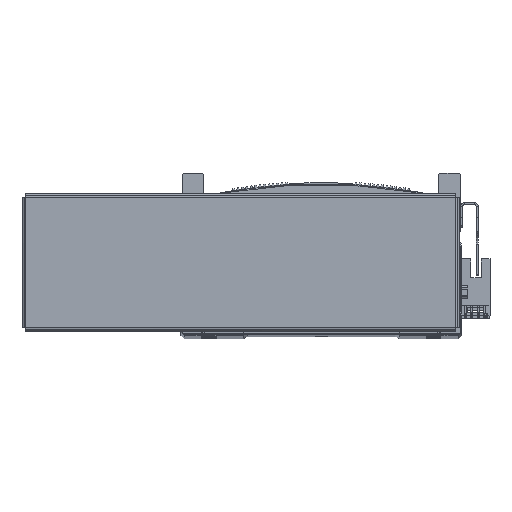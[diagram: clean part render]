
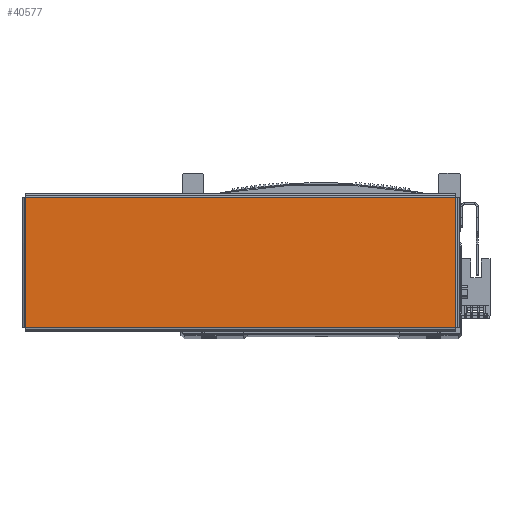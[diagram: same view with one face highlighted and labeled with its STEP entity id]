
A CAD part, top view. The second image highlights one B-rep face of the part: STEP entity #40577.
In plain terms, the highlighted planar face has unit normal (0, 0, 1) as drawn and (0, -1, 0) by its records, which use the part's own axes.
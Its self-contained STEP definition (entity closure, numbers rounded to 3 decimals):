
#1286 = LINE ( 'NONE', #11140, #1319 ) ;
#1319 = VECTOR ( 'NONE', #11048, 1000. ) ;
#1335 = VECTOR ( 'NONE', #11084, 1000. ) ;
#1341 = LINE ( 'NONE', #11138, #1335 ) ;
#2446 = LINE ( 'NONE', #11030, #2448 ) ;
#2448 = VECTOR ( 'NONE', #11020, 1000. ) ;
#2459 = LINE ( 'NONE', #10780, #2472 ) ;
#2472 = VECTOR ( 'NONE', #10831, 1000. ) ;
#7845 = CARTESIAN_POINT ( 'NONE',  ( 103.513, -1., 31.363 ) ) ;
#7859 = CARTESIAN_POINT ( 'NONE',  ( -103.513, -1., -31.363 ) ) ;
#7913 = CARTESIAN_POINT ( 'NONE',  ( 103.513, -1., -31.363 ) ) ;
#7930 = CARTESIAN_POINT ( 'NONE',  ( -103.513, -1., 31.363 ) ) ;
#10780 = CARTESIAN_POINT ( 'NONE',  ( 103.543, -1., 31.363 ) ) ;
#10831 = DIRECTION ( 'NONE',  ( -1., 0., 0. ) ) ;
#11020 = DIRECTION ( 'NONE',  ( 1., 0., 0. ) ) ;
#11030 = CARTESIAN_POINT ( 'NONE',  ( -103.543, -1., -31.363 ) ) ;
#11048 = DIRECTION ( 'NONE',  ( 0., 0., -1. ) ) ;
#11084 = DIRECTION ( 'NONE',  ( 0., 0., 1. ) ) ;
#11138 = CARTESIAN_POINT ( 'NONE',  ( 103.513, -1., -31.393 ) ) ;
#11140 = CARTESIAN_POINT ( 'NONE',  ( -103.513, -1., 31.393 ) ) ;
#18657 = ORIENTED_EDGE ( 'NONE', *, *, #25092, .T. ) ;
#18661 = ORIENTED_EDGE ( 'NONE', *, *, #25099, .T. ) ;
#18740 = ORIENTED_EDGE ( 'NONE', *, *, #25043, .T. ) ;
#18743 = ORIENTED_EDGE ( 'NONE', *, *, #25059, .T. ) ;
#22316 = AXIS2_PLACEMENT_3D ( 'NONE', #30432, #30452, #30438 ) ;
#25043 = EDGE_CURVE ( 'NONE', #41303, #41325, #2459, .T. ) ;
#25059 = EDGE_CURVE ( 'NONE', #41312, #41342, #2446, .T. ) ;
#25092 = EDGE_CURVE ( 'NONE', #41325, #41312, #1286, .T. ) ;
#25099 = EDGE_CURVE ( 'NONE', #41342, #41303, #1341, .T. ) ;
#28424 = FACE_OUTER_BOUND ( 'NONE', #69051, .T. ) ;
#30432 = CARTESIAN_POINT ( 'NONE',  ( 0., -1., 0. ) ) ;
#30438 = DIRECTION ( 'NONE',  ( 0., 0., 1. ) ) ;
#30451 = PLANE ( 'NONE',  #22316 ) ;
#30452 = DIRECTION ( 'NONE',  ( 0., 1., 0. ) ) ;
#40577 = ADVANCED_FACE ( 'NONE', ( #28424 ), #30451, .F. ) ;
#41303 = VERTEX_POINT ( 'NONE', #7845 ) ;
#41312 = VERTEX_POINT ( 'NONE', #7859 ) ;
#41325 = VERTEX_POINT ( 'NONE', #7930 ) ;
#41342 = VERTEX_POINT ( 'NONE', #7913 ) ;
#69051 = EDGE_LOOP ( 'NONE', ( #18740, #18657, #18743, #18661 ) ) ;
